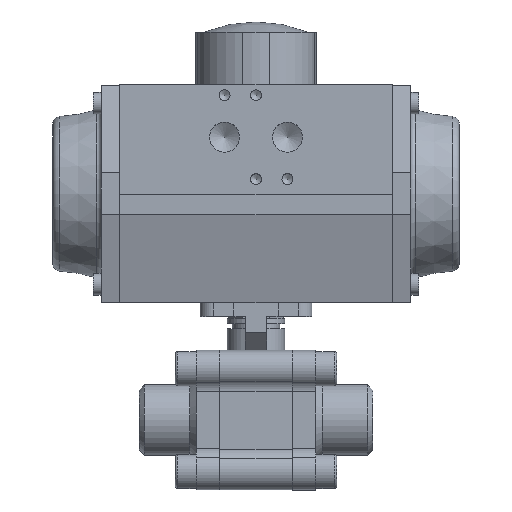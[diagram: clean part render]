
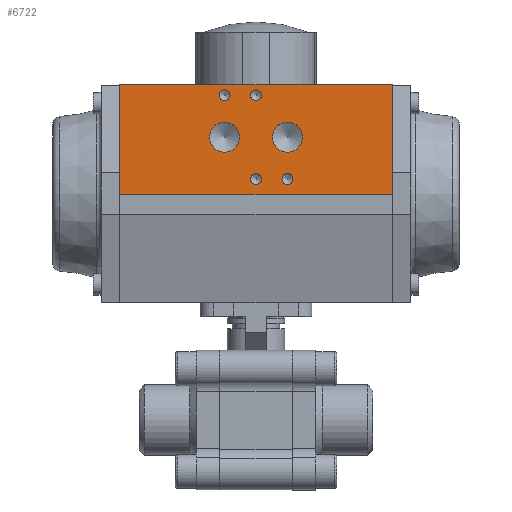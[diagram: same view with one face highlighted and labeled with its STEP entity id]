
A CAD part, top view. The second image highlights one B-rep face of the part: STEP entity #6722.
In plain terms, the highlighted planar face has unit normal (0, 0, 1) as drawn and (1, 0, 0) by its records, which use the part's own axes.
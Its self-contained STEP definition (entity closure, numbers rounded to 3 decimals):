
#16 = CARTESIAN_POINT ( 'NONE',  ( 42.5, -0.5, -52. ) ) ;
#583 = VERTEX_POINT ( 'NONE', #8402 ) ;
#669 = VERTEX_POINT ( 'NONE', #3683 ) ;
#690 = VECTOR ( 'NONE', #8584, 1000. ) ;
#781 = EDGE_CURVE ( 'NONE', #4949, #669, #7959, .T. ) ;
#1175 = EDGE_CURVE ( 'NONE', #4919, #4919, #4388, .T. ) ;
#1324 = EDGE_LOOP ( 'NONE', ( #4730 ) ) ;
#1354 = DIRECTION ( 'NONE',  ( 0., 0., -1. ) ) ;
#1561 = EDGE_CURVE ( 'NONE', #9640, #9633, #4852, .T. ) ;
#1657 = AXIS2_PLACEMENT_3D ( 'NONE', #9226, #9964, #7499 ) ;
#1694 = EDGE_CURVE ( 'NONE', #11026, #11026, #10363, .T. ) ;
#1755 = VECTOR ( 'NONE', #9605, 1000. ) ;
#1784 = ORIENTED_EDGE ( 'NONE', *, *, #1694, .F. ) ;
#2055 = AXIS2_PLACEMENT_3D ( 'NONE', #9099, #2935, #1354 ) ;
#2057 = DIRECTION ( 'NONE',  ( 0., 0., 1. ) ) ;
#2089 = FACE_BOUND ( 'NONE', #10535, .T. ) ;
#2402 = VERTEX_POINT ( 'NONE', #7705 ) ;
#2598 = AXIS2_PLACEMENT_3D ( 'NONE', #3728, #10855, #6498 ) ;
#2680 = EDGE_CURVE ( 'NONE', #10173, #10173, #5174, .T. ) ;
#2683 = EDGE_LOOP ( 'NONE', ( #10109 ) ) ;
#2815 = EDGE_LOOP ( 'NONE', ( #3016 ) ) ;
#2935 = DIRECTION ( 'NONE',  ( 1., 0., 0. ) ) ;
#3016 = ORIENTED_EDGE ( 'NONE', *, *, #2680, .F. ) ;
#3050 = EDGE_CURVE ( 'NONE', #2402, #2402, #3711, .T. ) ;
#3683 = CARTESIAN_POINT ( 'NONE',  ( 42.5, -0.5, 52. ) ) ;
#3711 = CIRCLE ( 'NONE', #2598, 5.722 ) ;
#3728 = CARTESIAN_POINT ( 'NONE',  ( 42.5, 21.5, 12. ) ) ;
#3740 = DIRECTION ( 'NONE',  ( 0., 0., -1. ) ) ;
#3753 = EDGE_CURVE ( 'NONE', #583, #583, #5555, .T. ) ;
#3842 = VECTOR ( 'NONE', #2057, 1000. ) ;
#3954 = FACE_BOUND ( 'NONE', #2815, .T. ) ;
#3963 = CARTESIAN_POINT ( 'NONE',  ( 42.5, 37.5, 9.9 ) ) ;
#4068 = FACE_BOUND ( 'NONE', #2683, .T. ) ;
#4388 = CIRCLE ( 'NONE', #7729, 2.1 ) ;
#4423 = EDGE_LOOP ( 'NONE', ( #1784 ) ) ;
#4687 = DIRECTION ( 'NONE',  ( 1., 0., 0. ) ) ;
#4730 = ORIENTED_EDGE ( 'NONE', *, *, #3753, .F. ) ;
#4734 = DIRECTION ( 'NONE',  ( 1., 0., 0. ) ) ;
#4852 = LINE ( 'NONE', #7842, #1755 ) ;
#4919 = VERTEX_POINT ( 'NONE', #3963 ) ;
#4949 = VERTEX_POINT ( 'NONE', #6745 ) ;
#5036 = AXIS2_PLACEMENT_3D ( 'NONE', #7960, #5349, #3740 ) ;
#5174 = CIRCLE ( 'NONE', #1657, 2.1 ) ;
#5328 = ORIENTED_EDGE ( 'NONE', *, *, #6800, .T. ) ;
#5349 = DIRECTION ( 'NONE',  ( 1., 0., 0. ) ) ;
#5555 = CIRCLE ( 'NONE', #2055, 2.1 ) ;
#5666 = DIRECTION ( 'NONE',  ( 0., 0., -1. ) ) ;
#5669 = CARTESIAN_POINT ( 'NONE',  ( 42.5, -0.5, -52. ) ) ;
#5742 = DIRECTION ( 'NONE',  ( 1., 0., 0. ) ) ;
#5791 = FACE_BOUND ( 'NONE', #1324, .T. ) ;
#5939 = LINE ( 'NONE', #9545, #690 ) ;
#6498 = DIRECTION ( 'NONE',  ( 0., 0., -1. ) ) ;
#6593 = CARTESIAN_POINT ( 'NONE',  ( 42.5, 5.5, 0. ) ) ;
#6720 = PLANE ( 'NONE',  #9674 ) ;
#6722 = ADVANCED_FACE ( 'NONE', ( #4068, #5791, #2089, #3954, #10952, #7585, #7414 ), #6720, .T. ) ;
#6745 = CARTESIAN_POINT ( 'NONE',  ( 42.5, -0.5, -52. ) ) ;
#6800 = EDGE_CURVE ( 'NONE', #4949, #9640, #11175, .T. ) ;
#7291 = VERTEX_POINT ( 'NONE', #9013 ) ;
#7414 = FACE_OUTER_BOUND ( 'NONE', #8286, .T. ) ;
#7475 = CARTESIAN_POINT ( 'NONE',  ( 42.5, 37.5, -2.1 ) ) ;
#7499 = DIRECTION ( 'NONE',  ( 0., 0., -1. ) ) ;
#7585 = FACE_BOUND ( 'NONE', #9250, .T. ) ;
#7644 = CARTESIAN_POINT ( 'NONE',  ( 42.5, -0.5, -52. ) ) ;
#7705 = CARTESIAN_POINT ( 'NONE',  ( 42.5, 21.5, 6.277 ) ) ;
#7729 = AXIS2_PLACEMENT_3D ( 'NONE', #9134, #5742, #10048 ) ;
#7842 = CARTESIAN_POINT ( 'NONE',  ( 42.5, 41.5, -52. ) ) ;
#7959 = LINE ( 'NONE', #16, #3842 ) ;
#7960 = CARTESIAN_POINT ( 'NONE',  ( 42.5, 21.5, -12. ) ) ;
#8097 = CARTESIAN_POINT ( 'NONE',  ( 42.5, 41.5, -52. ) ) ;
#8204 = CARTESIAN_POINT ( 'NONE',  ( 42.5, 41.5, 52. ) ) ;
#8286 = EDGE_LOOP ( 'NONE', ( #8991, #9277, #9347, #5328 ) ) ;
#8402 = CARTESIAN_POINT ( 'NONE',  ( 42.5, 5.5, -14.1 ) ) ;
#8468 = ORIENTED_EDGE ( 'NONE', *, *, #10761, .F. ) ;
#8584 = DIRECTION ( 'NONE',  ( 0., 1., 0. ) ) ;
#8642 = AXIS2_PLACEMENT_3D ( 'NONE', #6593, #4734, #5666 ) ;
#8665 = DIRECTION ( 'NONE',  ( 0., 1., 0. ) ) ;
#8827 = EDGE_CURVE ( 'NONE', #669, #9633, #5939, .T. ) ;
#8991 = ORIENTED_EDGE ( 'NONE', *, *, #1561, .T. ) ;
#9013 = CARTESIAN_POINT ( 'NONE',  ( 42.5, 5.5, -2.1 ) ) ;
#9099 = CARTESIAN_POINT ( 'NONE',  ( 42.5, 5.5, -12. ) ) ;
#9134 = CARTESIAN_POINT ( 'NONE',  ( 42.5, 37.5, 12. ) ) ;
#9226 = CARTESIAN_POINT ( 'NONE',  ( 42.5, 37.5, 0. ) ) ;
#9250 = EDGE_LOOP ( 'NONE', ( #9920 ) ) ;
#9277 = ORIENTED_EDGE ( 'NONE', *, *, #8827, .F. ) ;
#9298 = DIRECTION ( 'NONE',  ( 0., 1., 0. ) ) ;
#9347 = ORIENTED_EDGE ( 'NONE', *, *, #781, .F. ) ;
#9545 = CARTESIAN_POINT ( 'NONE',  ( 42.5, -0.5, 52. ) ) ;
#9605 = DIRECTION ( 'NONE',  ( 0., 0., 1. ) ) ;
#9633 = VERTEX_POINT ( 'NONE', #8204 ) ;
#9640 = VERTEX_POINT ( 'NONE', #8097 ) ;
#9674 = AXIS2_PLACEMENT_3D ( 'NONE', #5669, #4687, #9298 ) ;
#9724 = CIRCLE ( 'NONE', #8642, 2.1 ) ;
#9920 = ORIENTED_EDGE ( 'NONE', *, *, #3050, .F. ) ;
#9964 = DIRECTION ( 'NONE',  ( 1., 0., 0. ) ) ;
#10048 = DIRECTION ( 'NONE',  ( 0., 0., -1. ) ) ;
#10109 = ORIENTED_EDGE ( 'NONE', *, *, #1175, .F. ) ;
#10173 = VERTEX_POINT ( 'NONE', #7475 ) ;
#10280 = CARTESIAN_POINT ( 'NONE',  ( 42.5, 21.5, -17.722 ) ) ;
#10363 = CIRCLE ( 'NONE', #5036, 5.722 ) ;
#10535 = EDGE_LOOP ( 'NONE', ( #8468 ) ) ;
#10761 = EDGE_CURVE ( 'NONE', #7291, #7291, #9724, .T. ) ;
#10855 = DIRECTION ( 'NONE',  ( 1., 0., 0. ) ) ;
#10952 = FACE_BOUND ( 'NONE', #4423, .T. ) ;
#11026 = VERTEX_POINT ( 'NONE', #10280 ) ;
#11175 = LINE ( 'NONE', #7644, #11328 ) ;
#11328 = VECTOR ( 'NONE', #8665, 1000. ) ;
